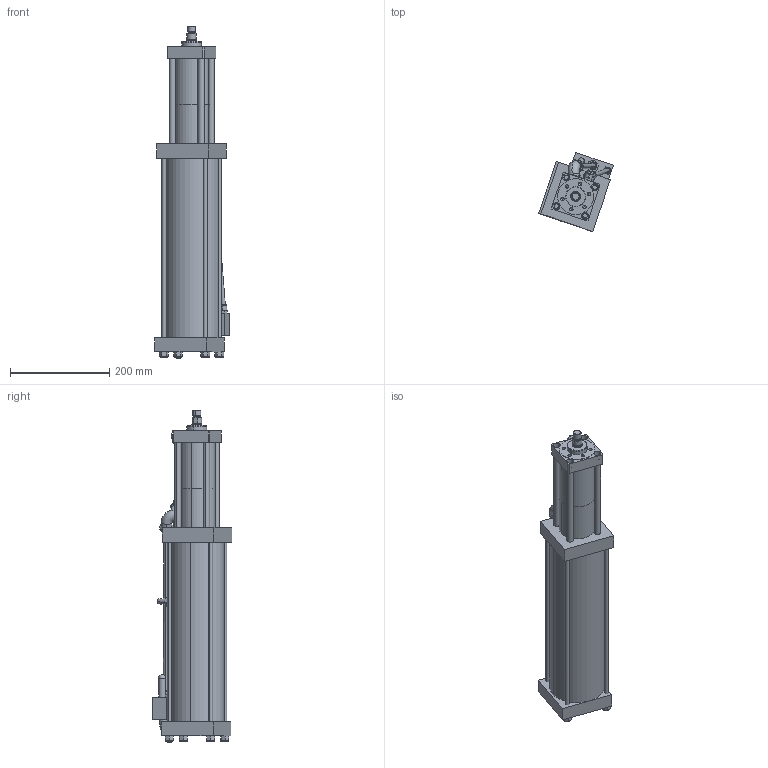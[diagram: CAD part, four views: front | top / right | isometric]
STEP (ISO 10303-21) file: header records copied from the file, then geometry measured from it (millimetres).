
FILE_DESCRIPTION (( 'STEP AP214' ), '1' );
FILE_NAME ('BS02-50-24S.STEP', '2025-09-04T06:18:32', ( 'Ranlm' ), ( '' ), 'SwSTEP 2.0', 'SolidWorks 2022', '' );
FILE_SCHEMA (( 'AUTOMOTIVE_DESIGN' ));
Length unit declared in the file: millimetre
Products named in the file (1): BS02-50-24S
Bounding box: 150.27 x 159.5 x 667.7 mm (x, y, z)
Volume: 5334715.4 mm3; surface area: 435832.2 mm2
Topology: 30 solids, 30 shells, 562 faces, 1222 edges, 751 vertices
Faces by surface type: plane 261, cylinder 187, cone 66, torus 38, bspline 8, sphere 2
Entity records: 22720 total; most frequent: CARTESIAN_POINT 3722, DIRECTION 2792, ORIENTED_EDGE 2388, EDGE_CURVE 1194, AXIS2_PLACEMENT_3D 1083, VERTEX_POINT 749, EDGE_LOOP 639, VECTOR 626
